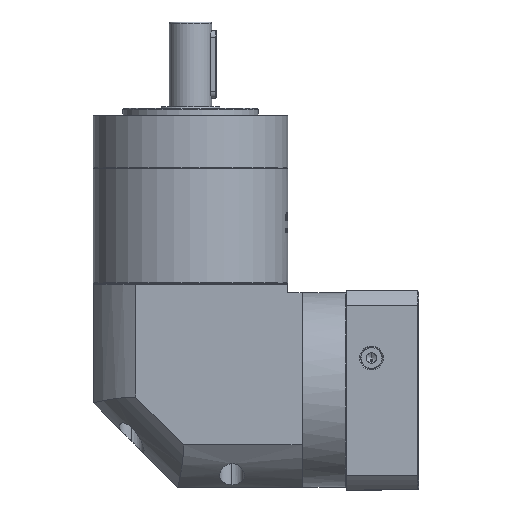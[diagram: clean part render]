
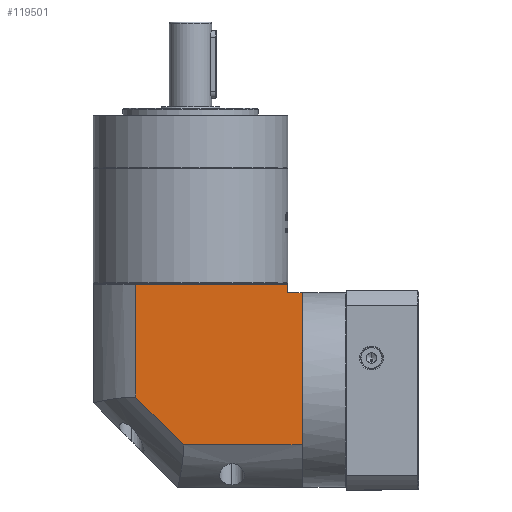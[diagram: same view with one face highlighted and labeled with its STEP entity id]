
A CAD part, left-side view. The second image highlights one B-rep face of the part: STEP entity #119501.
In plain terms, the highlighted planar face has unit normal (-1, 0, 0).
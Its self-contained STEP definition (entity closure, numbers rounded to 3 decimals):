
#7201 = DIRECTION ( 'NONE',  ( 0., 0., 1. ) ) ;
#9120 = ORIENTED_EDGE ( 'NONE', *, *, #80917, .F. ) ;
#12644 = CARTESIAN_POINT ( 'NONE',  ( -294.579, -44.977, 55.116 ) ) ;
#14099 = ORIENTED_EDGE ( 'NONE', *, *, #32927, .F. ) ;
#16691 = CARTESIAN_POINT ( 'NONE',  ( -294.579, -36.577, 55.116 ) ) ;
#22069 = DIRECTION ( 'NONE',  ( 0., 1., 0. ) ) ;
#24736 = EDGE_CURVE ( 'NONE', #88338, #98112, #93419, .T. ) ;
#29326 = DIRECTION ( 'NONE',  ( 0., 0.707, 0.707 ) ) ;
#30520 = ORIENTED_EDGE ( 'NONE', *, *, #159940, .T. ) ;
#31151 = CARTESIAN_POINT ( 'NONE',  ( -294.579, 24.985, -34.784 ) ) ;
#32517 = VECTOR ( 'NONE', #132798, 1000. ) ;
#32927 = EDGE_CURVE ( 'NONE', #173973, #136497, #179405, .T. ) ;
#41477 = FACE_OUTER_BOUND ( 'NONE', #150008, .T. ) ;
#46058 = LINE ( 'NONE', #156567, #52585 ) ;
#46312 = DIRECTION ( 'NONE',  ( 0., 0., 1. ) ) ;
#50846 = CARTESIAN_POINT ( 'NONE',  ( -294.579, -36.577, 60.116 ) ) ;
#52585 = VECTOR ( 'NONE', #86700, 1000. ) ;
#55582 = ORIENTED_EDGE ( 'NONE', *, *, #164050, .T. ) ;
#61843 = LINE ( 'NONE', #145878, #143155 ) ;
#63952 = DIRECTION ( 'NONE',  ( 0., 1., 0. ) ) ;
#67405 = LINE ( 'NONE', #174220, #174980 ) ;
#67763 = AXIS2_PLACEMENT_3D ( 'NONE', #79326, #178086, #63952 ) ;
#76279 = VECTOR ( 'NONE', #181172, 1000. ) ;
#79326 = CARTESIAN_POINT ( 'NONE',  ( -294.579, 78.423, 66.616 ) ) ;
#80917 = EDGE_CURVE ( 'NONE', #98112, #84202, #151186, .T. ) ;
#84202 = VERTEX_POINT ( 'NONE', #108024 ) ;
#84319 = CARTESIAN_POINT ( 'NONE',  ( -294.579, 53.323, 66.616 ) ) ;
#86700 = DIRECTION ( 'NONE',  ( 0., -1., 0. ) ) ;
#88338 = VERTEX_POINT ( 'NONE', #175703 ) ;
#89029 = VECTOR ( 'NONE', #29326, 1000. ) ;
#91437 = EDGE_CURVE ( 'NONE', #136497, #88338, #67405, .T. ) ;
#93419 = LINE ( 'NONE', #31151, #89029 ) ;
#98112 = VERTEX_POINT ( 'NONE', #162195 ) ;
#101498 = EDGE_CURVE ( 'NONE', #84202, #164842, #46058, .T. ) ;
#104683 = CARTESIAN_POINT ( 'NONE',  ( -294.579, -44.977, 66.616 ) ) ;
#104953 = ORIENTED_EDGE ( 'NONE', *, *, #101498, .F. ) ;
#108024 = CARTESIAN_POINT ( 'NONE',  ( -294.579, 53.323, 60.116 ) ) ;
#119501 = ADVANCED_FACE ( 'NONE', ( #41477 ), #172248, .F. ) ;
#132278 = CARTESIAN_POINT ( 'NONE',  ( -294.579, -44.977, -34.784 ) ) ;
#132798 = DIRECTION ( 'NONE',  ( 0., 0., -1. ) ) ;
#136497 = VERTEX_POINT ( 'NONE', #132278 ) ;
#143155 = VECTOR ( 'NONE', #7201, 1000. ) ;
#145878 = CARTESIAN_POINT ( 'NONE',  ( -294.579, -36.577, -59.884 ) ) ;
#150008 = EDGE_LOOP ( 'NONE', ( #9120, #153531, #155381, #14099, #55582, #30520, #104953 ) ) ;
#151186 = LINE ( 'NONE', #84319, #179708 ) ;
#153531 = ORIENTED_EDGE ( 'NONE', *, *, #24736, .F. ) ;
#155381 = ORIENTED_EDGE ( 'NONE', *, *, #91437, .F. ) ;
#156567 = CARTESIAN_POINT ( 'NONE',  ( -294.579, 78.423, 60.116 ) ) ;
#159940 = EDGE_CURVE ( 'NONE', #160790, #164842, #61843, .T. ) ;
#160790 = VERTEX_POINT ( 'NONE', #16691 ) ;
#162195 = CARTESIAN_POINT ( 'NONE',  ( -294.579, 53.323, -6.446 ) ) ;
#164050 = EDGE_CURVE ( 'NONE', #173973, #160790, #166252, .T. ) ;
#164842 = VERTEX_POINT ( 'NONE', #50846 ) ;
#166252 = LINE ( 'NONE', #167080, #76279 ) ;
#167080 = CARTESIAN_POINT ( 'NONE',  ( -294.579, -36.577, 55.116 ) ) ;
#172248 = PLANE ( 'NONE',  #67763 ) ;
#173973 = VERTEX_POINT ( 'NONE', #12644 ) ;
#174220 = CARTESIAN_POINT ( 'NONE',  ( -294.579, 78.423, -34.784 ) ) ;
#174980 = VECTOR ( 'NONE', #22069, 1000. ) ;
#175703 = CARTESIAN_POINT ( 'NONE',  ( -294.579, 24.985, -34.784 ) ) ;
#178086 = DIRECTION ( 'NONE',  ( 1., 0., 0. ) ) ;
#179405 = LINE ( 'NONE', #104683, #32517 ) ;
#179708 = VECTOR ( 'NONE', #46312, 1000. ) ;
#181172 = DIRECTION ( 'NONE',  ( 0., 1., 0. ) ) ;
